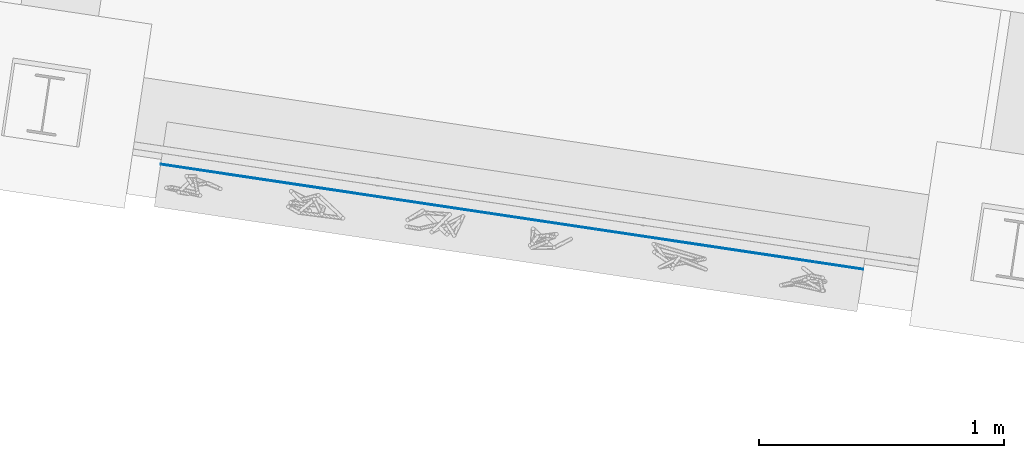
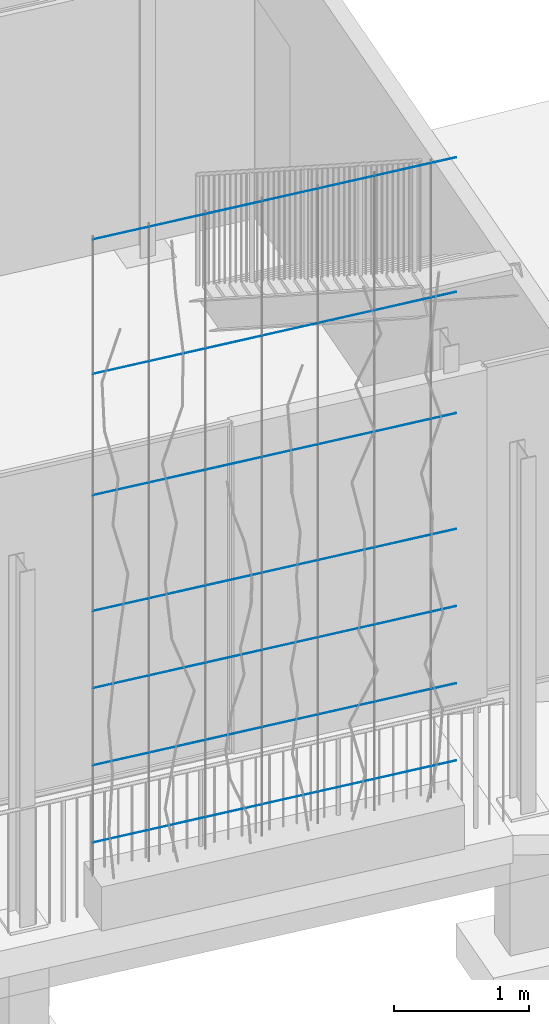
# One storey, part 88 of 142: 7 members, 1 element without a shape of its own.
"""IFC4 building model written with IfcOpenShell, lengths in metres."""

from ifc_helpers import new_model, si_unit, direction, frame, origin_with_axes, place, context, subcontext, project, spatial, circle, extrude, material, material_profile, profile_set, profile_usage, type_object, element, aggregate, save


model = new_model("IFC4")

# Units and contexts
model_context = context("Model", 3, precision=1e-05, world=origin_with_axes(), true_north=direction((0.0, 1.0)))
body_context = subcontext(model_context, "Body", "Model", "MODEL_VIEW")
ifc_project = project(units=[si_unit("AREAUNIT", "SQUARE_METRE"), si_unit("VOLUMEUNIT", "CUBIC_METRE"), si_unit("LENGTHUNIT", "METRE")], contexts=[model_context])

# Site, building, storey
site_placement = place(None, origin_with_axes())
site = spatial("IfcSite", under=ifc_project, at=site_placement, Name="Lares · Rua das Mercês · artigo 4771")
building_placement = place(site_placement, frame((15.0, 9.7, 14.65), z_axis=(0.0, 0.0, 1.0), x_axis=(0.989015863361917, -0.147809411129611, 0.0)))
building = spatial("IfcBuilding", under=site, at=building_placement, Name="Casa Sobreposta")
storey_placement = place(building_placement, origin_with_axes())
storey = spatial("IfcBuildingStorey", under=building, at=storey_placement, Name="00 · Habitação e estacionamento", Elevation=14.65)

# Assembly, members
assembly_placement = place(storey_placement, origin_with_axes())
assembly = element("IfcElementAssembly", 1, at=assembly_placement, inside=storey, Name="Fachada sul e pátio · estrutura e trepadeiras", ObjectType="LIVING_SHADE_TRELLIS", PredefinedType="USERDEFINED")
ifc_material = material(Name="Aço galvanizado / Stahl verzinkt", Category="steel")
ifc_material_profile = material_profile(ifc_material, circle(Radius=0.002))
ifc_profile_set = profile_set([ifc_material_profile], Name="D0.004")
ifc_profile_usage_1 = profile_usage(ifc_profile_set)
member_type = type_object("IfcMemberType", Name="D0.004 / galvanized", PredefinedType="NOTDEFINED", material=ifc_profile_set)
member_1_placement = place(assembly_placement, frame((20.5, -1.61, 0.65), z_axis=(1.0, 0.0, 0.0), x_axis=(0.0, -1.0, 0.0)))
member_1 = element("IfcMember", 2, at=member_1_placement, type_object=member_type, material=ifc_profile_usage_1, Name="Trepadeiras · fio horizontal", context=body_context, shape_type="SweptSolid", body=[
    extrude(circle(Radius=0.002), origin_with_axes(), (0.0, 0.0, 1.0), 2.9),
])
ifc_profile_usage_2 = profile_usage(ifc_profile_set)
member_2_placement = place(assembly_placement, frame((20.5, -1.61, 1.35), z_axis=(1.0, 0.0, 0.0), x_axis=(0.0, -1.0, 0.0)))
member_2 = element("IfcMember", 3, at=member_2_placement, type_object=member_type, material=ifc_profile_usage_2, Name="Trepadeiras · fio horizontal", context=body_context, shape_type="SweptSolid", body=[
    extrude(circle(Radius=0.002), origin_with_axes(), (0.0, 0.0, 1.0), 2.9),
])
ifc_profile_usage_3 = profile_usage(ifc_profile_set)
member_3_placement = place(assembly_placement, frame((20.5, -1.61, 2.05), z_axis=(1.0, 0.0, 0.0), x_axis=(0.0, -1.0, 0.0)))
member_3 = element("IfcMember", 4, at=member_3_placement, type_object=member_type, material=ifc_profile_usage_3, Name="Trepadeiras · fio horizontal", context=body_context, shape_type="SweptSolid", body=[
    extrude(circle(Radius=0.002), origin_with_axes(), (0.0, 0.0, 1.0), 2.9),
])
ifc_profile_usage_4 = profile_usage(ifc_profile_set)
member_4_placement = place(assembly_placement, frame((20.5, -1.61, 2.75), z_axis=(1.0, 0.0, 0.0), x_axis=(0.0, -1.0, 0.0)))
member_4 = element("IfcMember", 5, at=member_4_placement, type_object=member_type, material=ifc_profile_usage_4, Name="Trepadeiras · fio horizontal", context=body_context, shape_type="SweptSolid", body=[
    extrude(circle(Radius=0.002), origin_with_axes(), (0.0, 0.0, 1.0), 2.9),
])
ifc_profile_usage_5 = profile_usage(ifc_profile_set)
member_5_placement = place(assembly_placement, frame((20.5, -1.61, 3.8), z_axis=(1.0, 0.0, 0.0), x_axis=(0.0, -1.0, 0.0)))
member_5 = element("IfcMember", 6, at=member_5_placement, type_object=member_type, material=ifc_profile_usage_5, Name="Trepadeiras · fio horizontal", context=body_context, shape_type="SweptSolid", body=[
    extrude(circle(Radius=0.002), origin_with_axes(), (0.0, 0.0, 1.0), 2.9),
])
ifc_profile_usage_6 = profile_usage(ifc_profile_set)
member_6_placement = place(assembly_placement, frame((20.5, -1.61, 4.9), z_axis=(1.0, 0.0, 0.0), x_axis=(0.0, -1.0, 0.0)))
member_6 = element("IfcMember", 7, at=member_6_placement, type_object=member_type, material=ifc_profile_usage_6, Name="Trepadeiras · fio horizontal", context=body_context, shape_type="SweptSolid", body=[
    extrude(circle(Radius=0.002), origin_with_axes(), (0.0, 0.0, 1.0), 2.9),
])
ifc_profile_usage_7 = profile_usage(ifc_profile_set)
member_7_placement = place(assembly_placement, frame((20.5, -1.61, 6.12), z_axis=(1.0, 0.0, 0.0), x_axis=(0.0, -1.0, 0.0)))
member_7 = element("IfcMember", 8, at=member_7_placement, type_object=member_type, material=ifc_profile_usage_7, Name="Trepadeiras · fio horizontal", context=body_context, shape_type="SweptSolid", body=[
    extrude(circle(Radius=0.002), origin_with_axes(), (0.0, 0.0, 1.0), 2.9),
])
aggregate(assembly, [member_1, member_2, member_3, member_4, member_5, member_6, member_7])

save(model, "model.ifc")
